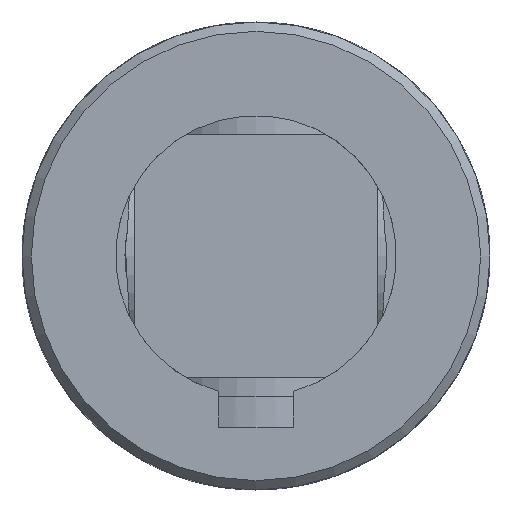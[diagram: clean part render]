
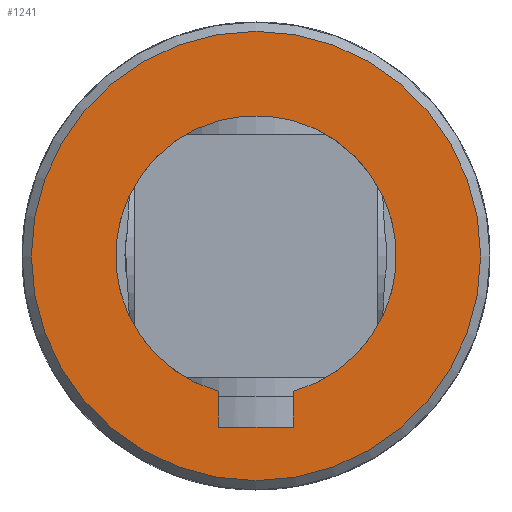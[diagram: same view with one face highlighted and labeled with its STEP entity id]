
A CAD part, front view. The second image highlights one B-rep face of the part: STEP entity #1241.
In plain terms, the highlighted planar face has unit normal (0, -1, 0).
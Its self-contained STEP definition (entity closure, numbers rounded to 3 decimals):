
#144=LINE('',#2312,#187);
#146=LINE('',#2328,#189);
#148=LINE('',#2332,#191);
#187=VECTOR('',#1619,3.843);
#189=VECTOR('',#1623,8.);
#191=VECTOR('',#1629,3.843);
#232=PLANE('',#1367);
#269=FACE_BOUND('',#434,.T.);
#331=FACE_OUTER_BOUND('',#433,.T.);
#433=EDGE_LOOP('',(#1051));
#434=EDGE_LOOP('',(#1052,#1053,#1054,#1055));
#498=CIRCLE('',#1349,15.);
#506=CIRCLE('',#1365,24.);
#593=VERTEX_POINT('',#2247);
#594=VERTEX_POINT('',#2249);
#604=VERTEX_POINT('',#2311);
#606=VERTEX_POINT('',#2327);
#609=VERTEX_POINT('',#2355);
#742=EDGE_CURVE('',#594,#593,#498,.T.);
#755=EDGE_CURVE('',#604,#594,#144,.T.);
#758=EDGE_CURVE('',#606,#604,#146,.T.);
#761=EDGE_CURVE('',#593,#606,#148,.T.);
#766=EDGE_CURVE('',#609,#609,#506,.T.);
#1051=ORIENTED_EDGE('',*,*,#766,.F.);
#1052=ORIENTED_EDGE('',*,*,#755,.T.);
#1053=ORIENTED_EDGE('',*,*,#742,.T.);
#1054=ORIENTED_EDGE('',*,*,#761,.T.);
#1055=ORIENTED_EDGE('',*,*,#758,.T.);
#1241=ADVANCED_FACE('',(#331,#269),#232,.F.);
#1349=AXIS2_PLACEMENT_3D('',#2250,#1600,#1601);
#1365=AXIS2_PLACEMENT_3D('',#2356,#1638,#1639);
#1367=AXIS2_PLACEMENT_3D('',#2564,#1646,#1647);
#1600=DIRECTION('center_axis',(0.,1.,0.));
#1601=DIRECTION('ref_axis',(-0.267,0.,0.964));
#1619=DIRECTION('',(0.,0.,1.));
#1623=DIRECTION('',(-1.,0.,0.));
#1629=DIRECTION('',(0.,0.,-1.));
#1638=DIRECTION('center_axis',(0.,1.,0.));
#1639=DIRECTION('ref_axis',(1.,0.,0.));
#1646=DIRECTION('center_axis',(0.,1.,0.));
#1647=DIRECTION('ref_axis',(0.,0.,1.));
#2247=CARTESIAN_POINT('',(4.,-78.5,-14.457));
#2249=CARTESIAN_POINT('',(-4.,-78.5,-14.457));
#2250=CARTESIAN_POINT('Origin',(0.,-78.5,0.));
#2311=CARTESIAN_POINT('',(-4.,-78.5,-18.3));
#2312=CARTESIAN_POINT('',(-4.,-78.5,-9.15));
#2327=CARTESIAN_POINT('',(4.,-78.5,-18.3));
#2328=CARTESIAN_POINT('',(2.,-78.5,-18.3));
#2332=CARTESIAN_POINT('',(4.,-78.5,-7.228));
#2355=CARTESIAN_POINT('',(-24.,-78.5,0.));
#2356=CARTESIAN_POINT('Origin',(0.,-78.5,0.));
#2564=CARTESIAN_POINT('Origin',(0.,-78.5,0.));
